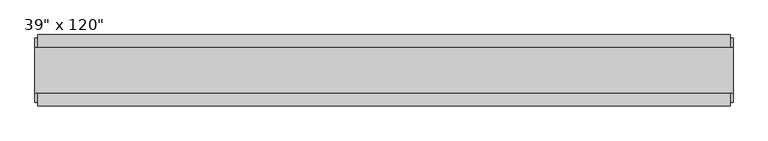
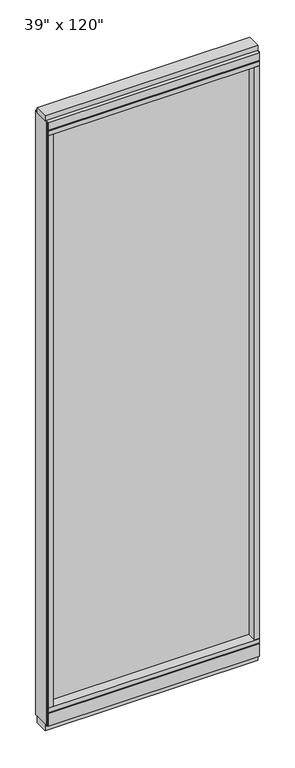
"""IFC4 building model written with IfcOpenShell, lengths in millimetres: furniture geometry."""

import ifcopenshell
import ifcopenshell.guid

model = None  # the IFC model being written
_history = None  # IfcOwnerHistory: only IFC2X3 demands one
_inside = {}  # id of a spatial element -> (the spatial element, [elements in it])
_under = {}  # id of a project, library or spatial element -> (it, [spatial elements below it])
_declared = {}  # id of a project -> (the project, [libraries it declares])
_typed = {}  # id of a type object -> (the type object, [elements of that type])
_made_of = {}  # id of a material, layer set ... -> (it, [elements and type objects made of it])


def new_model(schema):
    """Start an empty IFC model of exactly this schema.

    Asked for "IFC4X3", IfcOpenShell would pick the latest addendum, in which some entities
    have other attributes; the version numbers below select the first issue.
    IFC2X3 requires an IfcOwnerHistory on every rooted entity: one is made here for all.
    """
    global model, _history
    if schema == "IFC4X3":
        model = ifcopenshell.file(schema_version=(4, 3, 0, 0))
    else:
        model = ifcopenshell.file(schema=schema)
    _inside.clear()
    _under.clear()
    _declared.clear()
    _typed.clear()
    _made_of.clear()
    _history = None
    if model.schema == "IFC2X3":
        org = make("IfcOrganization", Name="unknown")
        user = make(
            "IfcPersonAndOrganization",
            ThePerson=make("IfcPerson", FamilyName="unknown"),
            TheOrganization=org,
        )
        app = make(
            "IfcApplication",
            ApplicationDeveloper=org,
            Version="unknown",
            ApplicationFullName="unknown",
            ApplicationIdentifier="unknown",
        )
        _history = make(
            "IfcOwnerHistory",
            OwningUser=user,
            OwningApplication=app,
            ChangeAction="ADDED",
            CreationDate=0,
        )
    return model


def make(cls, **values):
    """One entity of the class cls with the attributes given. An attribute that is None is left unset."""
    return model.create_entity(
        cls, **{name: value for name, value in values.items() if value is not None}
    )


def rooted(cls, **values):
    """An entity with a GlobalId (a new one), such as an element, a storey or a relation."""
    return make(cls, GlobalId=ifcopenshell.guid.new(), OwnerHistory=_history, **values)


def si_unit(unit_type, name, prefix=None):
    """IfcSIUnit, for example si_unit("LENGTHUNIT", "METRE", prefix="MILLI")."""
    return make("IfcSIUnit", UnitType=unit_type, Prefix=prefix, Name=name)


def assignment(units):
    """IfcUnitAssignment: the units of a project."""
    return None if units is None else make("IfcUnitAssignment", Units=units)


def point(xyz):
    """IfcCartesianPoint."""
    return None if xyz is None else make("IfcCartesianPoint", Coordinates=xyz)


def direction(xyz):
    """IfcDirection."""
    return None if xyz is None else make("IfcDirection", DirectionRatios=xyz)


def frame(location, z_axis=None, x_axis=None):
    """IfcAxis2Placement3D, a coordinate frame: its origin and axes. An axis left out is left unset."""
    return make(
        "IfcAxis2Placement3D",
        Location=point(location),
        Axis=direction(z_axis),
        RefDirection=direction(x_axis),
    )


def origin():
    """The frame at (0, 0, 0) with its axes left unset."""
    return frame((0.0, 0.0, 0.0))


def origin_with_axes():
    """The frame at (0, 0, 0) with the z axis (0, 0, 1) and the x axis (1, 0, 0) written out."""
    return frame((0.0, 0.0, 0.0), z_axis=(0.0, 0.0, 1.0), x_axis=(1.0, 0.0, 0.0))


def place(relative_to, where):
    """IfcLocalPlacement: puts the frame where relative to a parent placement (None: the world)."""
    return make(
        "IfcLocalPlacement", PlacementRelTo=relative_to, RelativePlacement=where
    )


def context(
    kind, dimensions, precision=None, world=None, true_north=None, identifier=None
):
    """IfcGeometricRepresentationContext, for example the 3D "Model" context."""
    return make(
        "IfcGeometricRepresentationContext",
        ContextIdentifier=identifier,
        ContextType=kind,
        CoordinateSpaceDimension=dimensions,
        Precision=precision,
        WorldCoordinateSystem=world,
        TrueNorth=true_north,
    )


def project(units=None, contexts=None):
    """IfcProject with its units and contexts."""
    return rooted(
        "IfcProject",
        Name="project",
        RepresentationContexts=contexts,
        UnitsInContext=assignment(units),
    )


def spatial(cls, under=None, at=None, **own):
    """A site, building, storey or space (cls), placed at a placement, below another one or the project."""
    s = rooted(cls, ObjectPlacement=at, **own)
    if under is not None:
        _under.setdefault(under.id(), (under, []))[1].append(s)
    return s


def polyline(points):
    """IfcPolyline through the points."""
    return make("IfcPolyline", Points=[point(p) for p in points])


def outline(outer, holes=None, kind="AREA"):
    """IfcArbitraryClosedProfileDef: a profile drawn as a closed curve; with holes, ...WithVoids."""
    if holes is None:
        return make("IfcArbitraryClosedProfileDef", ProfileType=kind, OuterCurve=outer)
    return make(
        "IfcArbitraryProfileDefWithVoids",
        ProfileType=kind,
        OuterCurve=outer,
        InnerCurves=holes,
    )


def extrude(swept, where, along, depth):
    """IfcExtrudedAreaSolid: the profile swept, set in the frame where, extruded along a direction by depth."""
    return make(
        "IfcExtrudedAreaSolid",
        SweptArea=swept,
        Position=where,
        ExtrudedDirection=direction(along),
        Depth=depth,
    )


def shape(context_of_items, identifier, shape_type, items):
    """IfcShapeRepresentation: the items that make up one representation, for example the "Body"."""
    return make(
        "IfcShapeRepresentation",
        ContextOfItems=context_of_items,
        RepresentationIdentifier=identifier,
        RepresentationType=shape_type,
        Items=items,
    )


def source(mapping_origin, context_of_items, identifier, shape_type, items):
    """IfcRepresentationMap: a shape defined once, which mapped items show again and again."""
    return make(
        "IfcRepresentationMap",
        MappingOrigin=mapping_origin,
        MappedRepresentation=shape(context_of_items, identifier, shape_type, items),
    )


def transform(
    local_origin,
    x_axis=None,
    y_axis=None,
    z_axis=None,
    scale=None,
    scale2=None,
    scale3=None,
    uniform=True,
):
    """IfcCartesianTransformationOperator3D, or its non-uniform kind. x_axis, y_axis, z_axis: its Axis1, 2, 3."""
    if uniform:
        return make(
            "IfcCartesianTransformationOperator3D",
            Axis1=direction(x_axis),
            Axis2=direction(y_axis),
            LocalOrigin=point(local_origin),
            Scale=scale,
            Axis3=direction(z_axis),
        )
    return make(
        "IfcCartesianTransformationOperator3DnonUniform",
        Axis1=direction(x_axis),
        Axis2=direction(y_axis),
        LocalOrigin=point(local_origin),
        Scale=scale,
        Axis3=direction(z_axis),
        Scale2=scale2,
        Scale3=scale3,
    )


def mapped(mapping_source, mapping_target):
    """IfcMappedItem: shows the shape of a source again, moved by a transform."""
    return make(
        "IfcMappedItem", MappingSource=mapping_source, MappingTarget=mapping_target
    )


def made_of(thing, what):
    """Note that an element or type object is made of a material, layer set ...; save() writes the relation."""
    if what is not None:
        _made_of.setdefault(what.id(), (what, []))[1].append(thing)
    return thing


def element(
    cls,
    number,
    at=None,
    inside=None,
    cuts=None,
    type_object=None,
    material=None,
    context=None,
    identifier="Body",
    shape_type=None,
    held_by="IfcProductDefinitionShape",
    body=None,
    shapes=None,
    **own,
):
    """One element of the class cls, such as IfcWall. Its Tag is "e" and its number.

    at: its placement. inside: the storey or other place that contains it. cuts: it is an
    opening in that element (IfcRelVoidsElement). A single representation is given by context,
    identifier, shape_type and body (its items); several are given by shapes. held_by: the class
    of the entity that holds the representations. save() writes the other relations.
    """
    e = rooted(cls, Tag="e%d" % number, ObjectPlacement=at, **own)
    if body is not None:
        shapes = [shape(context, identifier, shape_type, body)]
    if shapes is not None:
        e.Representation = make(held_by, Representations=shapes)
    if inside is not None:
        _inside.setdefault(inside.id(), (inside, []))[1].append(e)
    if cuts is not None:
        rooted(
            "IfcRelVoidsElement", RelatingBuildingElement=cuts, RelatedOpeningElement=e
        )
    if type_object is not None:
        _typed.setdefault(type_object.id(), (type_object, []))[1].append(e)
    return made_of(e, material)


def aggregate(whole, parts):
    """IfcRelAggregates: a whole, such as a stair, and the parts it consists of."""
    return rooted("IfcRelAggregates", RelatingObject=whole, RelatedObjects=parts)


def save(model, path):
    """Write the relations noted so far, then the file.

    IfcRelAggregates (storeys below a building ...), IfcRelContainedInSpatialStructure (elements
    in a storey), IfcRelDefinesByType, IfcRelAssociatesMaterial and IfcRelDeclares: one each for
    every whole, place, type object, material and project.
    """
    for whole, parts in _under.values():
        aggregate(whole, parts)
    for where, things in _inside.values():
        rooted(
            "IfcRelContainedInSpatialStructure",
            RelatedElements=things,
            RelatingStructure=where,
        )
    for kind, things in _typed.values():
        rooted("IfcRelDefinesByType", RelatedObjects=things, RelatingType=kind)
    for what, things in _made_of.values():
        rooted("IfcRelAssociatesMaterial", RelatedObjects=things, RelatingMaterial=what)
    for by, libraries in _declared.values():
        rooted("IfcRelDeclares", RelatingContext=by, RelatedDefinitions=libraries)
    model.write(path)


def furniture_b186ea79(model_context):
    return source(origin(), model_context, "Body", "SweptSolid", [
        extrude(outline(polyline([(412.9213989, -9.5977216), (-532.9944448, -9.5977216), (-532.9944448, 0.5622784), (412.9213989, 0.5622784), (412.9213989, -9.5977216)])), frame((0.0, 0.0, 120.523), z_axis=(0.0, 0.0, 1.0), x_axis=(1.0, 0.0, 0.0)), (0.0, 0.0, 1.0), 2838.577),
        extrude(outline(polyline([(-55.3177216, 93.345), (-50.3647216, 93.345), (-50.3647216, 98.298), (41.3292784, 98.298), (41.3292784, 93.345), (46.2822784, 93.345), (46.2822784, 31.75), (-55.3177216, 31.75), (-55.3177216, 93.345)])), frame((-555.2194448, 0.0, 0.0), z_axis=(1.0, 0.0, 0.0), x_axis=(0.0, 1.0, 0.0)), (0.0, 0.0, 1.0), 990.3658437),
        extrude(outline(polyline([(-555.2194448, -55.3177216), (-555.2194448, 46.2822784), (435.1463989, 46.2822784), (435.1463989, -55.3177216), (-555.2194448, -55.3177216)])), frame((0.0, 0.0, 98.298), z_axis=(0.0, 0.0, 1.0), x_axis=(1.0, 0.0, 0.0)), (0.0, 0.0, 1.0), 22.225),
        extrude(outline(polyline([(439.0833989, 27.9942784), (439.0833989, -37.0297216), (-559.1564448, -37.0297216), (-559.1564448, 27.9942784), (439.0833989, 27.9942784)])), origin_with_axes(), (0.0, 0.0, 1.0), 31.75),
        extrude(outline(polyline([(-559.1564448, -37.0297216), (-559.1564448, 27.9942784), (439.0833989, 27.9942784), (439.0833989, -37.0297216), (-559.1564448, -37.0297216)])), frame((0.0, 0.0, 3022.6), z_axis=(0.0, 0.0, 1.0), x_axis=(1.0, 0.0, 0.0)), (0.0, 0.0, 1.0), 25.4),
        extrude(outline(polyline([(-55.3177216, 2986.278), (-55.3177216, 3022.6), (46.2822784, 3022.6), (46.2822784, 2986.278), (41.3292784, 2986.278), (41.3292784, 2981.325), (-50.3647216, 2981.325), (-50.3647216, 2986.278), (-55.3177216, 2986.278)])), frame((-555.2194448, 0.0, 0.0), z_axis=(1.0, 0.0, 0.0), x_axis=(0.0, 1.0, 0.0)), (0.0, 0.0, 1.0), 990.3658437),
        extrude(outline(polyline([(435.1463989, 46.2822784), (435.1463989, -55.3177216), (-555.2194448, -55.3177216), (-555.2194448, 46.2822784), (435.1463989, 46.2822784)])), frame((0.0, 0.0, 2959.1), z_axis=(0.0, 0.0, 1.0), x_axis=(1.0, 0.0, 0.0)), (0.0, 0.0, 1.0), 22.225),
        extrude(outline(polyline([(412.9213989, -55.3177216), (412.9213989, 46.2822784), (435.1463989, 46.2822784), (435.1463989, -55.3177216), (412.9213989, -55.3177216)])), frame((0.0, 0.0, 120.523), z_axis=(0.0, 0.0, 1.0), x_axis=(1.0, 0.0, 0.0)), (0.0, 0.0, 1.0), 2838.577),
        extrude(outline(polyline([(-532.9944448, -55.3177216), (-555.2194448, -55.3177216), (-555.2194448, 46.2822784), (-532.9944448, 46.2822784), (-532.9944448, -55.3177216)])), frame((0.0, 0.0, 120.523), z_axis=(0.0, 0.0, 1.0), x_axis=(1.0, 0.0, 0.0)), (0.0, 0.0, 1.0), 2838.577),
        extrude(outline(polyline([(439.0833989, -50.3647216), (435.1463989, -50.3647216), (435.1463989, 41.3292784), (439.0833989, 41.3292784), (439.0833989, -50.3647216)])), frame((0.0, 0.0, 31.75), z_axis=(0.0, 0.0, 1.0), x_axis=(1.0, 0.0, 0.0)), (0.0, 0.0, 1.0), 2990.85),
        extrude(outline(polyline([(-559.1564448, -50.3647216), (-559.1564448, 41.3292784), (-555.2194448, 41.3292784), (-555.2194448, -50.3647216), (-559.1564448, -50.3647216)])), frame((0.0, 0.0, 31.75), z_axis=(0.0, 0.0, 1.0), x_axis=(1.0, 0.0, 0.0)), (0.0, 0.0, 1.0), 2990.85),
    ])


if __name__ == "__main__":
    model = new_model("IFC4")
    model_context = context("Model", 3, world=origin())
    ifc_project = project(units=[si_unit("LENGTHUNIT", "METRE", prefix="MILLI")], contexts=[model_context])
    site = spatial("IfcSite", under=ifc_project)
    building = spatial("IfcBuilding", under=site)
    placement = place(None, origin())
    furniture_shape = furniture_b186ea79(model_context)
    element("IfcFurniture", 1, ObjectType="Haworth_Enclose_Wall_Glass : 39\" x 120\"", at=placement, inside=building, context=model_context, shape_type="MappedRepresentation", body=[
        mapped(furniture_shape, transform((0.0, 0.0, 0.0), x_axis=(1.0, 0.0, 0.0), y_axis=(0.0, 1.0, 0.0), z_axis=(0.0, 0.0, 1.0))),
    ])
    save(model, "model.ifc")
